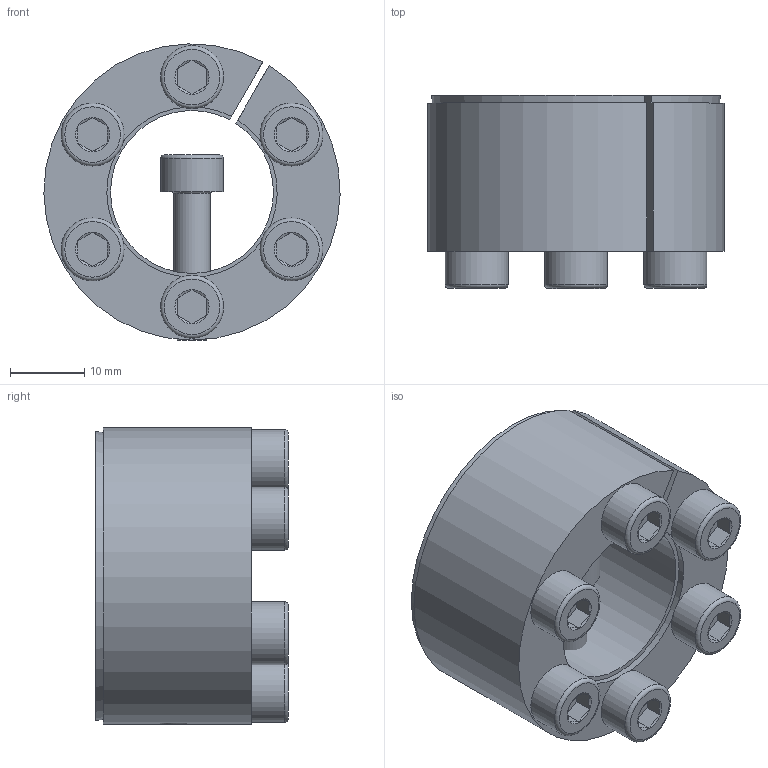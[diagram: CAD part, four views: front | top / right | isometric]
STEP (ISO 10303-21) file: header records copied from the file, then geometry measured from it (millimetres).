
FILE_DESCRIPTION( ( 'Unknown' ), '1' );
FILE_NAME( 'C:/Dokumente und Einstellungen/Sven/Desktop/homepage/cad - homepage/KBS61/KBS 61 - 22 x 40.stp', 'Unknown', ( 'Unknown' ), ( 'Unknown' ), 'XStep 1.0', 'Unknown', ' ' );
FILE_SCHEMA( ( 'automotive_design' ) );
Length unit declared in the file: millimetre
Products named in the file (3): Assem1; KBS 61 - 22 x 40; ISO EN DIN 4762 M5x20
Bounding box: 40 x 26 x 40 mm (x, y, z)
Volume: 35740.1 mm3; surface area: 19933.8 mm2
Topology: 9 solids, 9 shells, 179 faces, 355 edges, 208 vertices
Faces by surface type: plane 82, cone 53, cylinder 30, torus 14
Full cylindrical faces by diameter (mm): 5 x19, 8.5 x7
Entity records: 1242 total; most frequent: CARTESIAN_POINT 217, DIRECTION 180, ORIENTED_EDGE 134, AXIS2_PLACEMENT_3D 78, EDGE_CURVE 67, EDGE_LOOP 62, FACE_OUTER_BOUND 47, VERTEX_POINT 47
